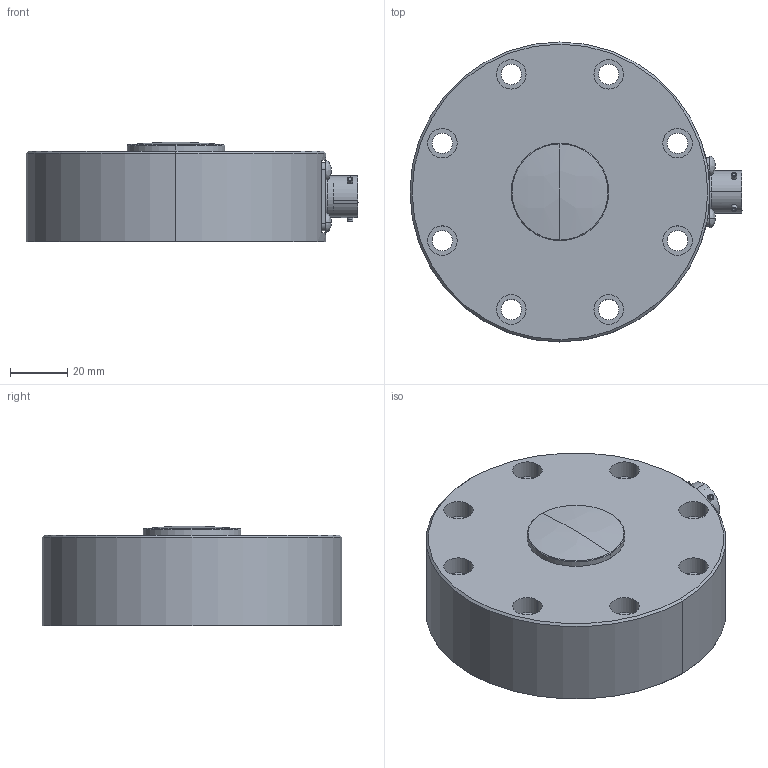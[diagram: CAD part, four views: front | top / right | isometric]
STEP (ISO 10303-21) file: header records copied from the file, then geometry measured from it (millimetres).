
FILE_DESCRIPTION (( 'STEP AP203' ), '1' );
FILE_NAME ('Interface 1211-5KN thru -50KN.STEP', '2011-06-07T14:49:13', ( ' ' ), ( '' ), 'SwSTEP 2.0', 'SolidWorks 2002349', '' );
FILE_SCHEMA (( 'CONFIG_CONTROL_DESIGN' ));
Length unit declared in the file: inch
Products named in the file (1): Interface 1211-5KN thru -50KN
Bounding box: 115.95 x 104.75 x 34.91 mm (x, y, z)
Volume: 260666.5 mm3; surface area: 35333.7 mm2
Topology: 1 solids, 1 shells, 226 faces, 532 edges, 346 vertices
Faces by surface type: cylinder 100, plane 85, bspline 27, cone 14
Entity records: 7455 total; most frequent: CARTESIAN_POINT 2295, ORIENTED_EDGE 1064, DIRECTION 1044, EDGE_CURVE 532, AXIS2_PLACEMENT_3D 419, VERTEX_POINT 346, EDGE_LOOP 280, FACE_OUTER_BOUND 226
